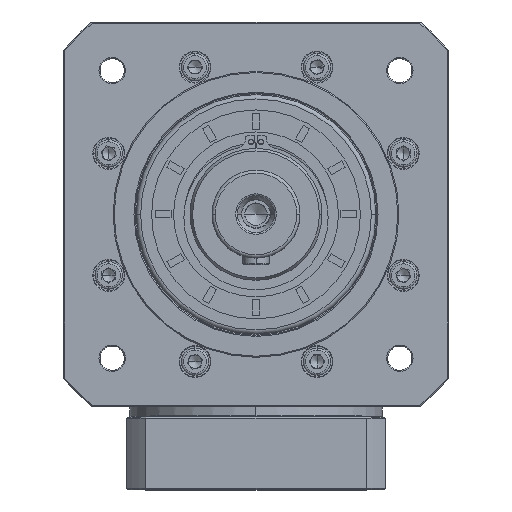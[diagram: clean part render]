
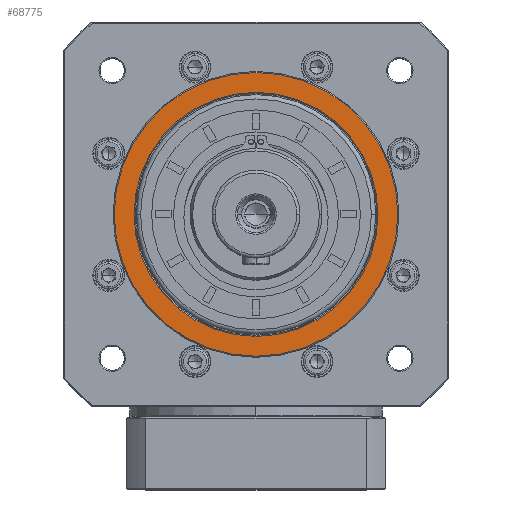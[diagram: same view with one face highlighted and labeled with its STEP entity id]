
A CAD part, top view. The second image highlights one B-rep face of the part: STEP entity #68775.
In plain terms, the highlighted planar face has unit normal (0, 0, 1).
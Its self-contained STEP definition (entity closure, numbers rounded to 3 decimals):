
#954 = EDGE_CURVE ( 'NONE', #96572, #67662, #59624, .T. ) ;
#2069 = ORIENTED_EDGE ( 'NONE', *, *, #47012, .T. ) ;
#2785 = DIRECTION ( 'NONE',  ( 1., 0., 0. ) ) ;
#4059 = CARTESIAN_POINT ( 'NONE',  ( 15.595, 15.393, 385.6 ) ) ;
#7279 = CIRCLE ( 'NONE', #23709, 55.5 ) ;
#16405 = DIRECTION ( 'NONE',  ( 0., 0., -1. ) ) ;
#19075 = EDGE_LOOP ( 'NONE', ( #97518, #19922 ) ) ;
#19148 = AXIS2_PLACEMENT_3D ( 'NONE', #97029, #84494, #70870 ) ;
#19922 = ORIENTED_EDGE ( 'NONE', *, *, #43343, .F. ) ;
#21444 = CIRCLE ( 'NONE', #49071, 55.5 ) ;
#22182 = DIRECTION ( 'NONE',  ( -1., 0., 0. ) ) ;
#23709 = AXIS2_PLACEMENT_3D ( 'NONE', #148371, #86027, #22182 ) ;
#28454 = CARTESIAN_POINT ( 'NONE',  ( 15.595, 15.393, 385.6 ) ) ;
#30248 = CARTESIAN_POINT ( 'NONE',  ( 71.095, 15.393, 385.6 ) ) ;
#43343 = EDGE_CURVE ( 'NONE', #67662, #96572, #100331, .T. ) ;
#44047 = DIRECTION ( 'NONE',  ( -1., 0., 0. ) ) ;
#47012 = EDGE_CURVE ( 'NONE', #94278, #129826, #21444, .T. ) ;
#49071 = AXIS2_PLACEMENT_3D ( 'NONE', #155503, #120044, #44047 ) ;
#50953 = EDGE_CURVE ( 'NONE', #129826, #94278, #7279, .T. ) ;
#55706 = CARTESIAN_POINT ( 'NONE',  ( 80.095, 15.393, 385.6 ) ) ;
#59624 = CIRCLE ( 'NONE', #71502, 64.5 ) ;
#60562 = CARTESIAN_POINT ( 'NONE',  ( -39.905, 15.393, 385.6 ) ) ;
#67662 = VERTEX_POINT ( 'NONE', #111657 ) ;
#68775 = ADVANCED_FACE ( 'NONE', ( #148287, #128735 ), #156468, .T. ) ;
#70870 = DIRECTION ( 'NONE',  ( 1., 0., 0. ) ) ;
#71502 = AXIS2_PLACEMENT_3D ( 'NONE', #28454, #16405, #2785 ) ;
#84494 = DIRECTION ( 'NONE',  ( 0., 0., -1. ) ) ;
#86027 = DIRECTION ( 'NONE',  ( 0., 0., -1. ) ) ;
#91381 = AXIS2_PLACEMENT_3D ( 'NONE', #4059, #91417, #104048 ) ;
#91417 = DIRECTION ( 'NONE',  ( 0., 0., 1. ) ) ;
#94278 = VERTEX_POINT ( 'NONE', #30248 ) ;
#96572 = VERTEX_POINT ( 'NONE', #55706 ) ;
#97029 = CARTESIAN_POINT ( 'NONE',  ( 15.595, 15.393, 385.6 ) ) ;
#97518 = ORIENTED_EDGE ( 'NONE', *, *, #954, .F. ) ;
#100331 = CIRCLE ( 'NONE', #19148, 64.5 ) ;
#104048 = DIRECTION ( 'NONE',  ( -1., 0., 0. ) ) ;
#111657 = CARTESIAN_POINT ( 'NONE',  ( -48.905, 15.393, 385.6 ) ) ;
#120044 = DIRECTION ( 'NONE',  ( 0., 0., -1. ) ) ;
#128735 = FACE_OUTER_BOUND ( 'NONE', #19075, .T. ) ;
#129826 = VERTEX_POINT ( 'NONE', #60562 ) ;
#148287 = FACE_BOUND ( 'NONE', #152974, .T. ) ;
#148371 = CARTESIAN_POINT ( 'NONE',  ( 15.595, 15.393, 385.6 ) ) ;
#152287 = ORIENTED_EDGE ( 'NONE', *, *, #50953, .T. ) ;
#152974 = EDGE_LOOP ( 'NONE', ( #152287, #2069 ) ) ;
#155503 = CARTESIAN_POINT ( 'NONE',  ( 15.595, 15.393, 385.6 ) ) ;
#156468 = PLANE ( 'NONE',  #91381 ) ;
